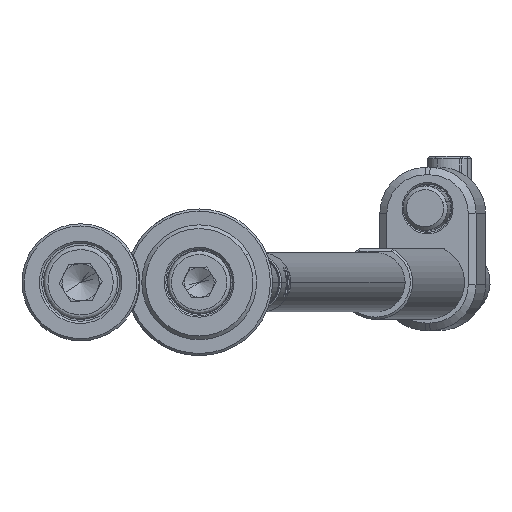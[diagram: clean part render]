
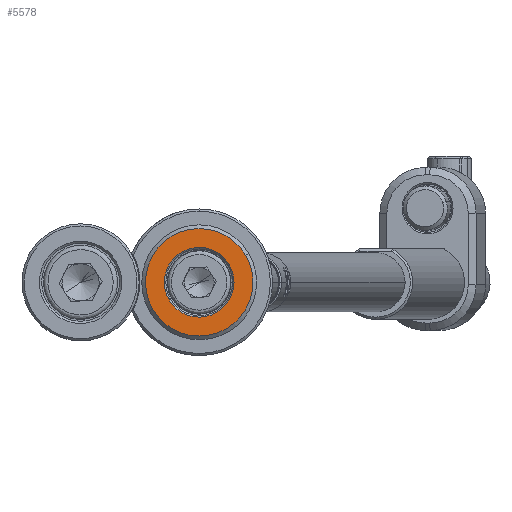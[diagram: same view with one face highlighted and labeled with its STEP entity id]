
A CAD part, front view. The second image highlights one B-rep face of the part: STEP entity #5578.
In plain terms, the highlighted planar face has unit normal (0, -1, 0).
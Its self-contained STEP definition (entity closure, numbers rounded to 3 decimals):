
#554 = ORIENTED_EDGE ( 'NONE', *, *, #10863, .T. ) ;
#566 = CARTESIAN_POINT ( 'NONE',  ( 0., -4., 0. ) ) ;
#594 = CIRCLE ( 'NONE', #2220, 7.25 ) ;
#800 = ORIENTED_EDGE ( 'NONE', *, *, #4728, .T. ) ;
#1185 = CIRCLE ( 'NONE', #7390, 4.7 ) ;
#2045 = VERTEX_POINT ( 'NONE', #4948 ) ;
#2220 = AXIS2_PLACEMENT_3D ( 'NONE', #10274, #9168, #10551 ) ;
#2398 = VERTEX_POINT ( 'NONE', #7577 ) ;
#2719 = DIRECTION ( 'NONE',  ( -0.865, 0., -0.503 ) ) ;
#2903 = DIRECTION ( 'NONE',  ( 0., -1., 0. ) ) ;
#3262 = CARTESIAN_POINT ( 'NONE',  ( 2.261, -4., -3.891 ) ) ;
#3427 = CARTESIAN_POINT ( 'NONE',  ( -4.063, -4., -2.362 ) ) ;
#3662 = CARTESIAN_POINT ( 'NONE',  ( 4.063, -4., 2.362 ) ) ;
#4652 = EDGE_CURVE ( 'NONE', #7248, #12007, #14138, .T. ) ;
#4728 = EDGE_CURVE ( 'NONE', #2045, #2398, #594, .T. ) ;
#4948 = CARTESIAN_POINT ( 'NONE',  ( 6.268, -4., 3.643 ) ) ;
#5227 = ORIENTED_EDGE ( 'NONE', *, *, #4652, .T. ) ;
#5433 = DIRECTION ( 'NONE',  ( 0., 1., 0. ) ) ;
#5578 = ADVANCED_FACE ( 'NONE', ( #8363, #12784 ), #10630, .F. ) ;
#5792 = EDGE_LOOP ( 'NONE', ( #11289, #5227 ) ) ;
#5871 = AXIS2_PLACEMENT_3D ( 'NONE', #7077, #12349, #12491 ) ;
#6368 = DIRECTION ( 'NONE',  ( -0.865, 0., -0.503 ) ) ;
#6891 = CIRCLE ( 'NONE', #11041, 7.25 ) ;
#7077 = CARTESIAN_POINT ( 'NONE',  ( 0., -4., 0. ) ) ;
#7248 = VERTEX_POINT ( 'NONE', #3427 ) ;
#7390 = AXIS2_PLACEMENT_3D ( 'NONE', #566, #11706, #2719 ) ;
#7577 = CARTESIAN_POINT ( 'NONE',  ( -6.268, -4., -3.643 ) ) ;
#8363 = FACE_BOUND ( 'NONE', #5792, .T. ) ;
#9168 = DIRECTION ( 'NONE',  ( 0., -1., 0. ) ) ;
#9832 = EDGE_LOOP ( 'NONE', ( #554, #800 ) ) ;
#9988 = AXIS2_PLACEMENT_3D ( 'NONE', #3262, #5433, #14196 ) ;
#10274 = CARTESIAN_POINT ( 'NONE',  ( 0., -4., 0. ) ) ;
#10551 = DIRECTION ( 'NONE',  ( -0.865, 0., -0.503 ) ) ;
#10630 = PLANE ( 'NONE',  #9988 ) ;
#10863 = EDGE_CURVE ( 'NONE', #2398, #2045, #6891, .T. ) ;
#11041 = AXIS2_PLACEMENT_3D ( 'NONE', #12764, #2903, #6368 ) ;
#11289 = ORIENTED_EDGE ( 'NONE', *, *, #11519, .T. ) ;
#11519 = EDGE_CURVE ( 'NONE', #12007, #7248, #1185, .T. ) ;
#11706 = DIRECTION ( 'NONE',  ( 0., 1., 0. ) ) ;
#12007 = VERTEX_POINT ( 'NONE', #3662 ) ;
#12349 = DIRECTION ( 'NONE',  ( 0., 1., 0. ) ) ;
#12491 = DIRECTION ( 'NONE',  ( -0.865, 0., -0.503 ) ) ;
#12764 = CARTESIAN_POINT ( 'NONE',  ( 0., -4., 0. ) ) ;
#12784 = FACE_OUTER_BOUND ( 'NONE', #9832, .T. ) ;
#14138 = CIRCLE ( 'NONE', #5871, 4.7 ) ;
#14196 = DIRECTION ( 'NONE',  ( -0.865, 0., -0.503 ) ) ;
